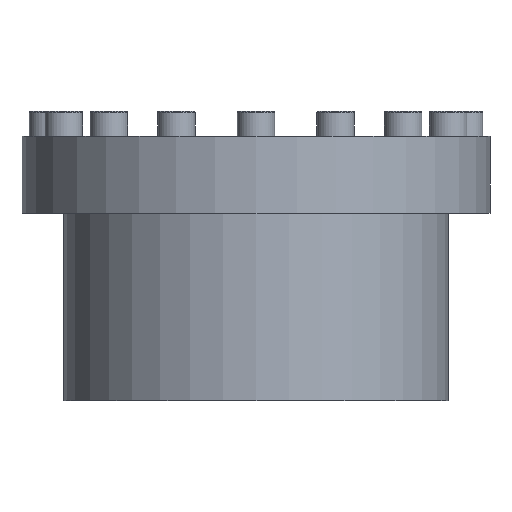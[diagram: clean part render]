
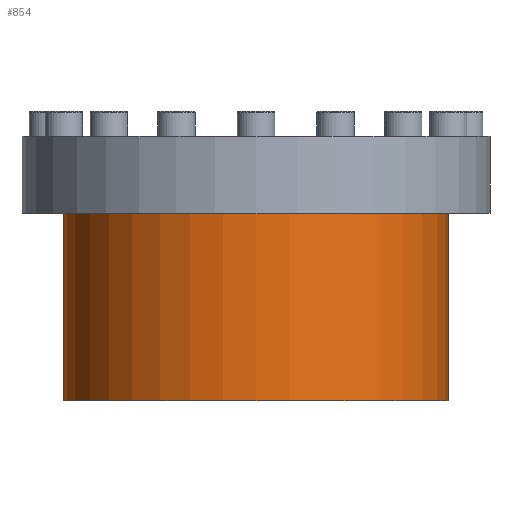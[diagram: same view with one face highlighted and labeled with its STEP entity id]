
A CAD part, front view. The second image highlights one B-rep face of the part: STEP entity #854.
In plain terms, the highlighted cylindrical face has radius 92.4 mm (diameter 184.8 mm), a partial arc.
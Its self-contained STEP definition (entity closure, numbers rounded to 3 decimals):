
#143 = CARTESIAN_POINT ( 'NONE',  ( -92.4, 0., -127. ) ) ;
#250 = AXIS2_PLACEMENT_3D ( 'NONE', #4309, #777, #3578 ) ;
#289 = FACE_OUTER_BOUND ( 'NONE', #4209, .T. ) ;
#306 = VERTEX_POINT ( 'NONE', #2343 ) ;
#448 = DIRECTION ( 'NONE',  ( 0., 0., 1. ) ) ;
#599 = AXIS2_PLACEMENT_3D ( 'NONE', #4043, #3647, #5003 ) ;
#683 = VERTEX_POINT ( 'NONE', #143 ) ;
#727 = ORIENTED_EDGE ( 'NONE', *, *, #3875, .F. ) ;
#777 = DIRECTION ( 'NONE',  ( 0., 0., 1. ) ) ;
#854 = ADVANCED_FACE ( 'NONE', ( #289 ), #5696, .T. ) ;
#1109 = EDGE_CURVE ( 'NONE', #683, #1833, #3198, .T. ) ;
#1407 = EDGE_CURVE ( 'NONE', #1833, #306, #3193, .T. ) ;
#1466 = VECTOR ( 'NONE', #1696, 1000. ) ;
#1476 = EDGE_CURVE ( 'NONE', #683, #4533, #3419, .T. ) ;
#1535 = DIRECTION ( 'NONE',  ( 1., 0., 0. ) ) ;
#1696 = DIRECTION ( 'NONE',  ( 0., 0., 1. ) ) ;
#1833 = VERTEX_POINT ( 'NONE', #4734 ) ;
#2343 = CARTESIAN_POINT ( 'NONE',  ( 92.4, 0., -37. ) ) ;
#3174 = ORIENTED_EDGE ( 'NONE', *, *, #1476, .F. ) ;
#3186 = CARTESIAN_POINT ( 'NONE',  ( -92.4, 0., 0. ) ) ;
#3193 = LINE ( 'NONE', #4821, #1466 ) ;
#3198 = CIRCLE ( 'NONE', #599, 92.4 ) ;
#3399 = ORIENTED_EDGE ( 'NONE', *, *, #1407, .T. ) ;
#3419 = LINE ( 'NONE', #3186, #5077 ) ;
#3578 = DIRECTION ( 'NONE',  ( 1., 0., 0. ) ) ;
#3647 = DIRECTION ( 'NONE',  ( 0., 0., 1. ) ) ;
#3875 = EDGE_CURVE ( 'NONE', #4533, #306, #3936, .T. ) ;
#3936 = CIRCLE ( 'NONE', #250, 92.4 ) ;
#4043 = CARTESIAN_POINT ( 'NONE',  ( 0., 0., -127. ) ) ;
#4163 = CARTESIAN_POINT ( 'NONE',  ( 0., 0., 0. ) ) ;
#4209 = EDGE_LOOP ( 'NONE', ( #3174, #4937, #3399, #727 ) ) ;
#4309 = CARTESIAN_POINT ( 'NONE',  ( 0., 0., -37. ) ) ;
#4533 = VERTEX_POINT ( 'NONE', #5442 ) ;
#4602 = DIRECTION ( 'NONE',  ( 0., 0., 1. ) ) ;
#4734 = CARTESIAN_POINT ( 'NONE',  ( 92.4, 0., -127. ) ) ;
#4821 = CARTESIAN_POINT ( 'NONE',  ( 92.4, 0., 0. ) ) ;
#4883 = AXIS2_PLACEMENT_3D ( 'NONE', #4163, #4602, #1535 ) ;
#4937 = ORIENTED_EDGE ( 'NONE', *, *, #1109, .T. ) ;
#5003 = DIRECTION ( 'NONE',  ( 1., 0., 0. ) ) ;
#5077 = VECTOR ( 'NONE', #448, 1000. ) ;
#5442 = CARTESIAN_POINT ( 'NONE',  ( -92.4, 0., -37. ) ) ;
#5696 = CYLINDRICAL_SURFACE ( 'NONE', #4883, 92.4 ) ;
